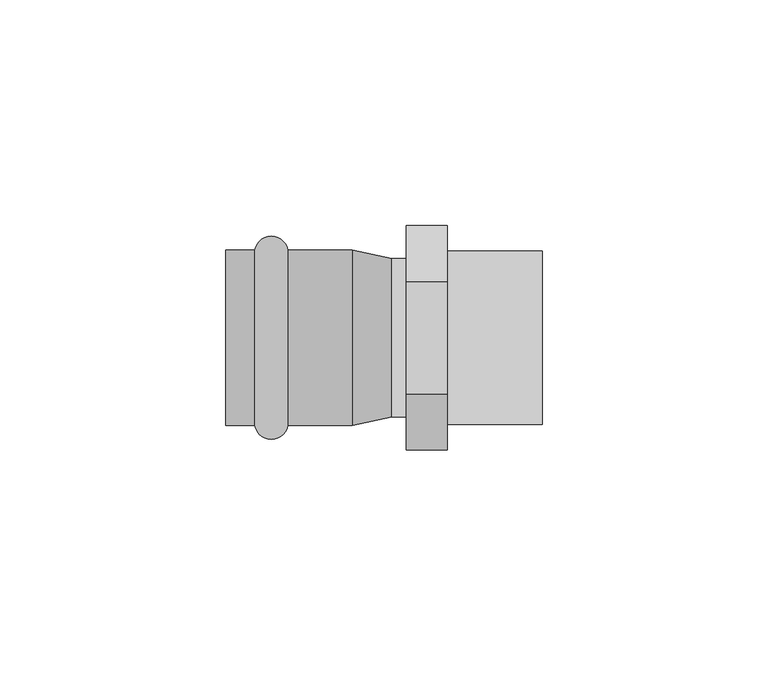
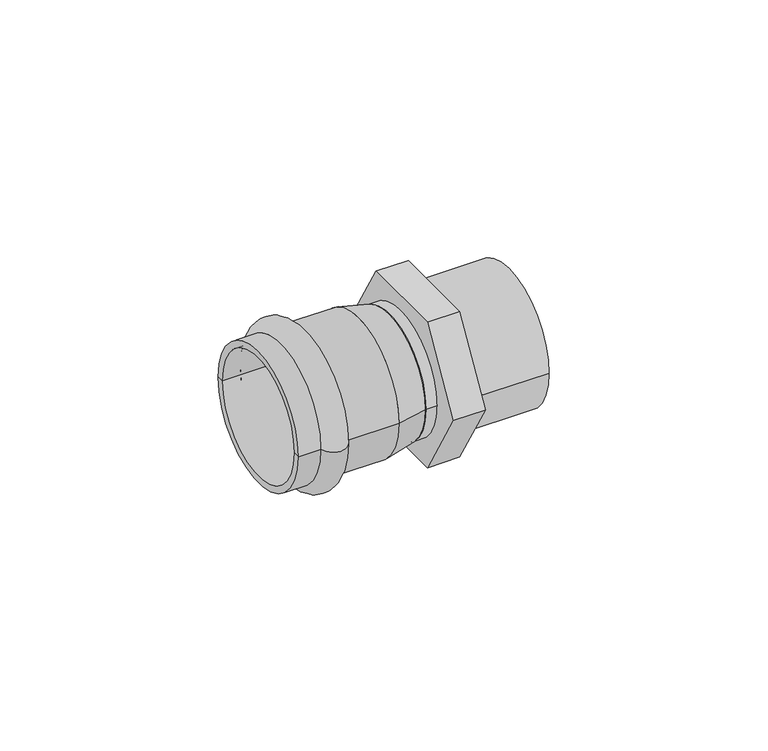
"""IFC4 building model written with IfcOpenShell, lengths in millimetres: pipe fitting geometry, VALTEC_VTi.901.I_Соединитель прямой с переходом на наружную резьбу_Нержавеющая сталь : VTi.901.I."""

from ifc_helpers import new_model, si_unit, point, frame, origin, origin_2d, place, context, project, spatial, polyline, circle_curve, ellipse_curve, trimmed, segment, composite_curve, outline, extrude, source, transform, mapped, element, save
from ifc_brep_helpers import plane_surface, cylinder_surface, revolved_surface, advanced_brep


def pipe_fitting_1d3f455c(model_context):
    return source(origin(), model_context, "Body", "SolidModel", [
        advanced_brep(
        [(-38.1282371, -19.4, 0.0), (-38.1282371, 19.4, 0.0), (-30.7417629, 19.4, 0.0), (-30.7417629, -19.4, 0.0), (-44.485, -19.4, 0.0), (-44.485, 19.4, 0.0), (-44.485, -17.5, 0.0), (-44.485, 17.5, 0.0), (-16.485, -17.5, 0.0), (-16.485, 17.5, 0.0), (-16.485, -19.4, 0.0), (-16.485, 19.4, 0.0)],
        [
            (0, 1, circle_curve(frame((-38.1282371, 0.0, 0.0), z_axis=(1.0, 0.0, 0.0), x_axis=(0.0, 1.0, 0.0)), 19.4)),
            (1, 2, circle_curve(frame((-34.435, 18.75, 0.0), z_axis=(0.0, 0.0, -1.0), x_axis=(1.0, 0.0, 0.0)), 3.75)),
            (2, 3, circle_curve(frame((-30.7417629, 0.0, 0.0), z_axis=(-1.0, 0.0, 0.0), x_axis=(0.0, 1.0, 0.0)), 19.4)),
            (3, 0, circle_curve(frame((-34.435, -18.75, 0.0), z_axis=(0.0, 0.0, -1.0), x_axis=(1.0, 0.0, 0.0)), 3.75)),
            (1, 0, circle_curve(frame((-38.1282371, 0.0, 0.0), z_axis=(1.0, 0.0, 0.0), x_axis=(0.0, 1.0, 0.0)), 19.4)),
            (3, 2, circle_curve(frame((-30.7417629, 0.0, 0.0), z_axis=(-1.0, 0.0, 0.0), x_axis=(0.0, 1.0, 0.0)), 19.4)),
            (4, 5, circle_curve(frame((-44.485, 0.0, 0.0), z_axis=(1.0, 0.0, 0.0), x_axis=(0.0, 1.0, 0.0)), 19.4)),
            (5, 1),
            (0, 4),
            (5, 4, circle_curve(frame((-44.485, 0.0, 0.0), z_axis=(1.0, 0.0, 0.0), x_axis=(0.0, 1.0, 0.0)), 19.4)),
            (6, 7, circle_curve(frame((-44.485, 0.0, 0.0), z_axis=(1.0, 0.0, 0.0), x_axis=(0.0, 1.0, 0.0)), 17.5)),
            (7, 5),
            (4, 6),
            (7, 6, circle_curve(frame((-44.485, 0.0, 0.0), z_axis=(1.0, 0.0, 0.0), x_axis=(0.0, 1.0, 0.0)), 17.5)),
            (8, 9, circle_curve(frame((-16.485, 0.0, 0.0), z_axis=(1.0, 0.0, 0.0), x_axis=(0.0, 1.0, 0.0)), 17.5)),
            (9, 7),
            (6, 8),
            (9, 8, circle_curve(frame((-16.485, 0.0, 0.0), z_axis=(1.0, 0.0, 0.0), x_axis=(0.0, 1.0, 0.0)), 17.5)),
            (10, 11, circle_curve(frame((-16.485, 0.0, 0.0), z_axis=(1.0, 0.0, 0.0), x_axis=(0.0, 1.0, 0.0)), 19.4)),
            (11, 9),
            (8, 10),
            (11, 10, circle_curve(frame((-16.485, 0.0, 0.0), z_axis=(1.0, 0.0, 0.0), x_axis=(0.0, 1.0, 0.0)), 19.4)),
            (2, 11),
            (10, 3),
        ],
        [
            revolved_surface(trimmed(ellipse_curve(frame((-34.435, 18.75, 0.0), z_axis=(0.0, 0.0, 1.0), x_axis=(1.0, 0.0, 0.0)), 3.75, 3.75), [point((-30.7417629, 19.4, 0.0))], [point((-38.1282371, 19.4, 0.0))], True, "CARTESIAN"), (-48.0214426, 0.0, 0.0), (-1.0, 0.0, 0.0)),
            cylinder_surface(frame((-48.0214426, 0.0, 0.0), z_axis=(-1.0, 0.0, 0.0), x_axis=(0.0, 1.0, 0.0)), 19.4),
            plane_surface(frame((-44.485, 0.0, 0.0), z_axis=(-1.0, 0.0, 0.0), x_axis=(0.0, 1.0, 0.0))),
            revolved_surface(polyline([(-44.485, 17.5, 0.0), (-16.485, 17.5, 0.0)]), (-48.0214426, 0.0, 0.0), (-1.0, 0.0, 0.0)),
            plane_surface(frame((-16.485, 0.0, 0.0), z_axis=(1.0, 0.0, 0.0), x_axis=(0.0, 1.0, 0.0))),
        ],
        [
            (0, [[1, 2, 3, 4]]),
            (0, [[5, -4, 6, -2]]),
            (1, [[7, 8, -1, 9]]),
            (1, [[10, -9, -5, -8]]),
            (2, [[11, 12, -7, 13]]),
            (2, [[14, -13, -10, -12]]),
            (3, [[15, 16, -11, 17]]),
            (3, [[18, -17, -14, -16]]),
            (4, [[19, 20, -15, 21]]),
            (4, [[22, -21, -18, -20]]),
            (1, [[-3, 23, -19, 24]]),
            (1, [[-6, -24, -22, -23]]),
        ],
    ),
        extrude(outline(polyline([(-24.8260616, 0.0), (-12.4130308, 21.5), (12.4130308, 21.5), (24.8260616, 0.0), (12.4130308, -21.5), (-12.4130308, -21.5), (-24.8260616, 0.0)])), frame((-4.515, 0.0, 0.0), z_axis=(1.0, 0.0, 0.0), x_axis=(0.0, 1.0, 0.0)), (0.0, 0.0, 1.0), 9.03),
        extrude(outline(composite_curve([segment(trimmed(circle_curve(origin_2d(), 17.5), [point((-17.5, 0.0))], [point((17.5, 0.0))], False, "CARTESIAN"), True, "CONTINUOUS"), segment(trimmed(circle_curve(origin_2d(), 17.5), [point((17.5, 0.0))], [point((-17.5, 0.0))], False, "CARTESIAN"), True, "CONTINUOUS")], self_intersect=False)), frame((-7.8183127, 0.0, 0.0), z_axis=(1.0, 0.0, 0.0), x_axis=(0.0, 1.0, 0.0)), (0.0, 0.0, 1.0), 3.3033127),
        advanced_brep(
        [(-16.485, -19.4, 0.0), (-16.485, 19.4, 0.0), (-7.8183127, -17.5, 0.0), (-7.8183127, 17.5, 0.0)],
        [
            (0, 1, circle_curve(frame((-16.485, 0.0, 0.0), z_axis=(-1.0, 0.0, 0.0), x_axis=(0.0, -1.0, 0.0)), 19.4)),
            (1, 0, circle_curve(frame((-16.485, 0.0, 0.0), z_axis=(-1.0, 0.0, 0.0), x_axis=(0.0, 1.0, 0.0)), 19.4)),
            (2, 3, circle_curve(frame((-7.8183127, 0.0, 0.0), z_axis=(1.0, 0.0, 0.0), x_axis=(0.0, 1.0, 0.0)), 17.5)),
            (3, 2, circle_curve(frame((-7.8183127, 0.0, 0.0), z_axis=(1.0, 0.0, 0.0), x_axis=(0.0, -1.0, 0.0)), 17.5)),
            (2, 0),
            (1, 3),
        ],
        [
            plane_surface(frame((-16.485, 0.0, 0.0), z_axis=(-1.0, 0.0, 0.0), x_axis=(0.0, 0.0, -1.0))),
            plane_surface(frame((-7.8183127, 0.0, 0.0), z_axis=(1.0, 0.0, 0.0), x_axis=(0.0, 0.0, -1.0))),
            revolved_surface(polyline([(-7.818312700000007, -17.500000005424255, 0.0), (-16.485, -19.4, 0.0)]), (72.006439, 0.0, 0.0), (-1.0, 0.0, 0.0)),
            revolved_surface(polyline([(-7.818312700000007, 17.500000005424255, 0.0), (-16.485, 19.4, 0.0)]), (72.006439, 0.0, 0.0), (-1.0, 0.0, 0.0)),
        ],
        [
            (0, [[1, 2]]),
            (1, [[3, 4]]),
            (2, [[-3, 5, -2, 6]]),
            (3, [[-4, -6, -1, -5]]),
        ],
    ),
        extrude(outline(composite_curve([segment(trimmed(circle_curve(origin_2d(), 19.2), [point((-19.2, 0.0))], [point((19.2, 0.0))], False, "CARTESIAN"), True, "CONTINUOUS"), segment(trimmed(circle_curve(origin_2d(), 19.2), [point((19.2, 0.0))], [point((-19.2, 0.0))], False, "CARTESIAN"), True, "CONTINUOUS")], self_intersect=False), holes=[composite_curve([segment(trimmed(circle_curve(origin_2d(), 16.0), [point((-16.0, 0.0))], [point((16.0, 0.0))], True, "CARTESIAN"), True, "CONTINUOUS"), segment(trimmed(circle_curve(origin_2d(), 16.0), [point((16.0, 0.0))], [point((-16.0, 0.0))], True, "CARTESIAN"), True, "CONTINUOUS")], self_intersect=False)]), frame((4.515, 0.0, 0.0), z_axis=(1.0, 0.0, 0.0), x_axis=(0.0, 1.0, 0.0)), (0.0, 0.0, 1.0), 21.0),
    ])


if __name__ == "__main__":
    model = new_model("IFC4")
    model_context = context("Model", 3, world=origin())
    ifc_project = project(units=[si_unit("LENGTHUNIT", "METRE", prefix="MILLI")], contexts=[model_context])
    site = spatial("IfcSite", under=ifc_project)
    building = spatial("IfcBuilding", under=site)
    placement = place(None, origin())
    pipe_fitting_shape = pipe_fitting_1d3f455c(model_context)
    element("IfcPipeFitting", 1, ObjectType="VALTEC_VTi.901.I_Соединитель прямой с переходом на наружную резьбу_Нержавеющая сталь : VTi.901.I", at=placement, inside=building, context=model_context, shape_type="MappedRepresentation", body=[
        mapped(pipe_fitting_shape, transform((0.0, 0.0, 0.0), x_axis=(1.0, 0.0, 0.0), y_axis=(0.0, 1.0, 0.0), z_axis=(0.0, 0.0, 1.0))),
    ])
    save(model, "model.ifc")
